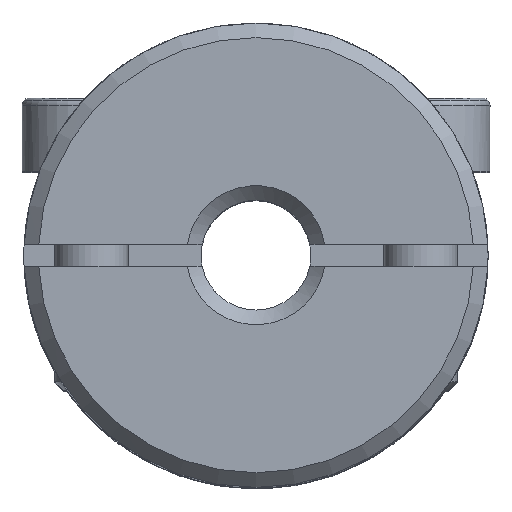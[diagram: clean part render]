
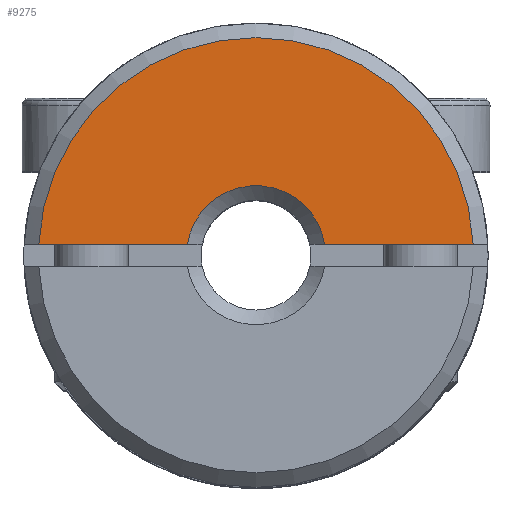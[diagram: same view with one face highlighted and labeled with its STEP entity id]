
A CAD part, top view. The second image highlights one B-rep face of the part: STEP entity #9275.
In plain terms, the highlighted planar face has unit normal (0, 0, 1).
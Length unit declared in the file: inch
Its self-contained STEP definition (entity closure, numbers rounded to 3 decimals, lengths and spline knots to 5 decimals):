
#3599=DIRECTION('',(-1.,0.,0.));
#3600=VECTOR('',#3599,0.16009);
#3601=CARTESIAN_POINT('',(-0.07386,0.01181,1.));
#3602=LINE('',#3601,#3600);
#3611=CARTESIAN_POINT('',(-0.07386,0.01181,1.));
#3698=CARTESIAN_POINT('',(0.,0.,1.));
#3699=DIRECTION('',(0.,0.,1.));
#3700=DIRECTION('',(0.999,0.05,0.));
#3701=AXIS2_PLACEMENT_3D('',#3698,#3699,#3700);
#3706=CARTESIAN_POINT('',(0.,0.,1.));
#3707=DIRECTION('',(0.,0.,-1.));
#3708=DIRECTION('',(-0.987,0.158,0.));
#3709=AXIS2_PLACEMENT_3D('',#3706,#3707,#3708);
#3732=CARTESIAN_POINT('',(0.23395,0.01181,1.));
#3752=DIRECTION('',(-1.,0.,0.));
#3753=VECTOR('',#3752,0.16009);
#3754=CARTESIAN_POINT('',(0.23395,0.01181,1.));
#3755=LINE('',#3754,#3753);
#6833=VERTEX_POINT('',#3732);
#6835=CARTESIAN_POINT('',(0.07386,0.01181,1.));
#6836=VERTEX_POINT('',#6835);
#6840=VERTEX_POINT('',#3611);
#6841=CARTESIAN_POINT('',(-0.23395,0.01181,1.));
#6842=VERTEX_POINT('',#6841);
#9262=CARTESIAN_POINT('',(0.,0.,1.));
#9263=DIRECTION('',(0.,0.,-1.));
#9264=DIRECTION('',(-1.,0.,0.));
#9265=AXIS2_PLACEMENT_3D('',#9262,#9263,#9264);
#9266=PLANE('',#9265);
#9267=ORIENTED_EDGE('',*,*,#9191,.T.);
#9269=ORIENTED_EDGE('',*,*,#9268,.F.);
#9271=ORIENTED_EDGE('',*,*,#9270,.T.);
#9272=ORIENTED_EDGE('',*,*,#9254,.F.);
#9273=EDGE_LOOP('',(#9267,#9269,#9271,#9272));
#9274=FACE_OUTER_BOUND('',#9273,.F.);
#3702=CIRCLE('',#3701,0.23425);
#3710=CIRCLE('',#3709,0.0748);
#9191=EDGE_CURVE('',#6840,#6842,#3602,.T.);
#9254=EDGE_CURVE('',#6840,#6836,#3710,.T.);
#9268=EDGE_CURVE('',#6833,#6842,#3702,.T.);
#9270=EDGE_CURVE('',#6833,#6836,#3755,.T.);
#9275=ADVANCED_FACE('',(#9274),#9266,.F.);
